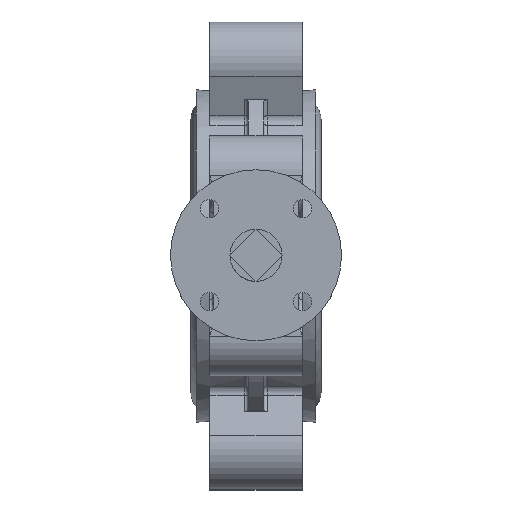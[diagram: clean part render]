
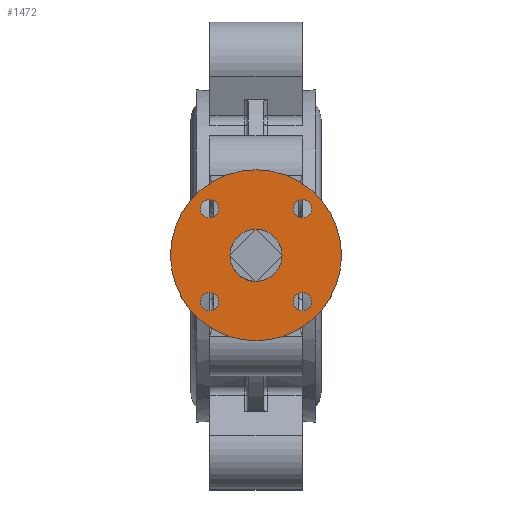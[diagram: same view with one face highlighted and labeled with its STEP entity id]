
A CAD part, top view. The second image highlights one B-rep face of the part: STEP entity #1472.
In plain terms, the highlighted planar face has unit normal (0, 0, 1).
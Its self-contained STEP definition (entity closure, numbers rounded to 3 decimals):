
#1472=ADVANCED_FACE('',(#4736,#4738,#4740,#4742,#4744,#4746),#4748,.T.);
#4736=FACE_BOUND('',#4737,.T.);
#4737=EDGE_LOOP('',(#8682));
#4738=FACE_BOUND('',#4739,.T.);
#4739=EDGE_LOOP('',(#8683));
#4740=FACE_BOUND('',#4741,.T.);
#4741=EDGE_LOOP('',(#8684));
#4742=FACE_BOUND('',#4743,.T.);
#4743=EDGE_LOOP('',(#8685));
#4744=FACE_BOUND('',#4745,.T.);
#4745=EDGE_LOOP('',(#8686));
#4746=FACE_BOUND('',#4747,.T.);
#4747=EDGE_LOOP('',(#8687));
#4748=PLANE('',#4749);
#4749=AXIS2_PLACEMENT_3D('',#4750,#4751,#4752);
#4750=CARTESIAN_POINT('',(0.,0.,155.));
#4751=DIRECTION('',(0.,0.,1.));
#4752=DIRECTION('',(1.,0.,0.));
#8682=ORIENTED_EDGE('',*,*,#10916,.T.);
#8683=ORIENTED_EDGE('',*,*,#11287,.T.);
#8684=ORIENTED_EDGE('',*,*,#10923,.T.);
#8685=ORIENTED_EDGE('',*,*,#10922,.T.);
#8686=ORIENTED_EDGE('',*,*,#10921,.T.);
#8687=ORIENTED_EDGE('',*,*,#10920,.T.);
#10916=EDGE_CURVE('',#12707,#12707,#12708,.T.);
#10920=EDGE_CURVE('',#12712,#12712,#12713,.F.);
#10921=EDGE_CURVE('',#12714,#12714,#12715,.F.);
#10922=EDGE_CURVE('',#12716,#12716,#12717,.F.);
#10923=EDGE_CURVE('',#12718,#12718,#12719,.F.);
#11287=EDGE_CURVE('',#13344,#13344,#13345,.F.);
#12707=VERTEX_POINT('',#16415);
#12708=CIRCLE('',#16416,32.5);
#12712=VERTEX_POINT('',#16431);
#12713=CIRCLE('',#16432,3.5);
#12714=VERTEX_POINT('',#16436);
#12715=CIRCLE('',#16437,3.5);
#12716=VERTEX_POINT('',#16441);
#12717=CIRCLE('',#16442,3.5);
#12718=VERTEX_POINT('',#16446);
#12719=CIRCLE('',#16447,3.5);
#13344=VERTEX_POINT('',#18237);
#13345=CIRCLE('',#18238,9.899);
#16415=CARTESIAN_POINT('',(-32.5,0.,155.));
#16416=AXIS2_PLACEMENT_3D('',#16417,#16418,#16419);
#16417=CARTESIAN_POINT('',(0.,0.,155.));
#16418=DIRECTION('',(0.,0.,1.));
#16419=DIRECTION('',(-1.,0.,0.));
#16431=CARTESIAN_POINT('',(-17.678,21.178,155.));
#16432=AXIS2_PLACEMENT_3D('',#16433,#16434,#16435);
#16433=CARTESIAN_POINT('',(-17.678,17.678,155.));
#16434=DIRECTION('',(0.,0.,1.));
#16435=DIRECTION('',(0.,1.,0.));
#16436=CARTESIAN_POINT('',(21.178,17.678,155.));
#16437=AXIS2_PLACEMENT_3D('',#16438,#16439,#16440);
#16438=CARTESIAN_POINT('',(17.678,17.678,155.));
#16439=DIRECTION('',(0.,0.,1.));
#16440=DIRECTION('',(1.,0.,0.));
#16441=CARTESIAN_POINT('',(17.678,-21.178,155.));
#16442=AXIS2_PLACEMENT_3D('',#16443,#16444,#16445);
#16443=CARTESIAN_POINT('',(17.678,-17.678,155.));
#16444=DIRECTION('',(0.,0.,1.));
#16445=DIRECTION('',(0.,-1.,0.));
#16446=CARTESIAN_POINT('',(-21.178,-17.678,155.));
#16447=AXIS2_PLACEMENT_3D('',#16448,#16449,#16450);
#16448=CARTESIAN_POINT('',(-17.678,-17.678,155.));
#16449=DIRECTION('',(0.,0.,1.));
#16450=DIRECTION('',(-1.,0.,0.));
#18237=CARTESIAN_POINT('',(0.,-9.899,155.));
#18238=AXIS2_PLACEMENT_3D('',#18239,#18240,#18241);
#18239=CARTESIAN_POINT('',(0.,0.,155.));
#18240=DIRECTION('',(0.,0.,1.));
#18241=DIRECTION('',(0.,-1.,0.));
